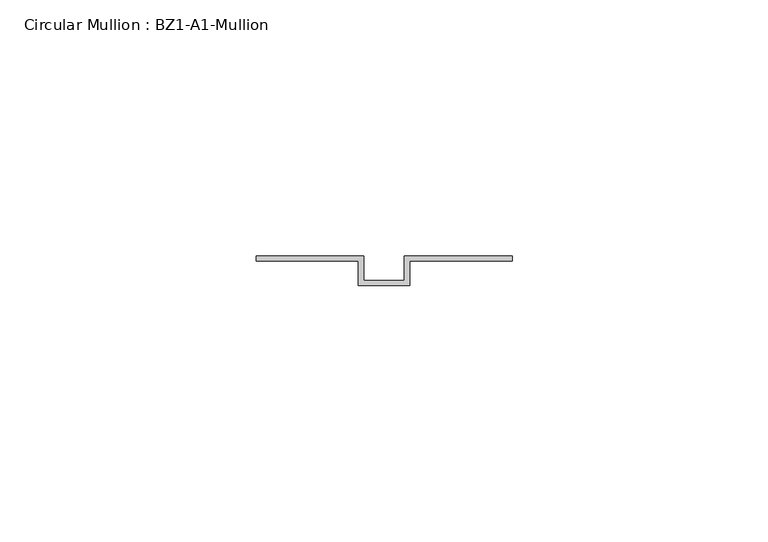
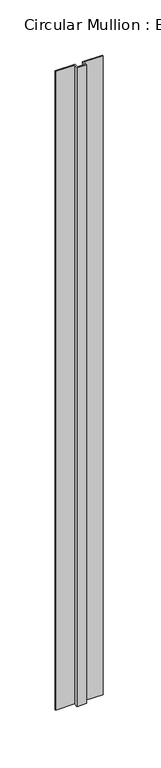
"""IFC4 building model written with IfcOpenShell, lengths in millimetres: member geometry, Circular Mullion : BZ1-A1-Mullion."""

import ifcopenshell
import ifcopenshell.guid

model = None  # the IFC model being written
_history = None  # IfcOwnerHistory: only IFC2X3 demands one
_inside = {}  # id of a spatial element -> (the spatial element, [elements in it])
_under = {}  # id of a project, library or spatial element -> (it, [spatial elements below it])
_declared = {}  # id of a project -> (the project, [libraries it declares])
_typed = {}  # id of a type object -> (the type object, [elements of that type])
_made_of = {}  # id of a material, layer set ... -> (it, [elements and type objects made of it])


def new_model(schema):
    """Start an empty IFC model of exactly this schema.

    Asked for "IFC4X3", IfcOpenShell would pick the latest addendum, in which some entities
    have other attributes; the version numbers below select the first issue.
    IFC2X3 requires an IfcOwnerHistory on every rooted entity: one is made here for all.
    """
    global model, _history
    if schema == "IFC4X3":
        model = ifcopenshell.file(schema_version=(4, 3, 0, 0))
    else:
        model = ifcopenshell.file(schema=schema)
    _inside.clear()
    _under.clear()
    _declared.clear()
    _typed.clear()
    _made_of.clear()
    _history = None
    if model.schema == "IFC2X3":
        org = make("IfcOrganization", Name="unknown")
        user = make(
            "IfcPersonAndOrganization",
            ThePerson=make("IfcPerson", FamilyName="unknown"),
            TheOrganization=org,
        )
        app = make(
            "IfcApplication",
            ApplicationDeveloper=org,
            Version="unknown",
            ApplicationFullName="unknown",
            ApplicationIdentifier="unknown",
        )
        _history = make(
            "IfcOwnerHistory",
            OwningUser=user,
            OwningApplication=app,
            ChangeAction="ADDED",
            CreationDate=0,
        )
    return model


def make(cls, **values):
    """One entity of the class cls with the attributes given. An attribute that is None is left unset."""
    return model.create_entity(
        cls, **{name: value for name, value in values.items() if value is not None}
    )


def rooted(cls, **values):
    """An entity with a GlobalId (a new one), such as an element, a storey or a relation."""
    return make(cls, GlobalId=ifcopenshell.guid.new(), OwnerHistory=_history, **values)


def si_unit(unit_type, name, prefix=None):
    """IfcSIUnit, for example si_unit("LENGTHUNIT", "METRE", prefix="MILLI")."""
    return make("IfcSIUnit", UnitType=unit_type, Prefix=prefix, Name=name)


def assignment(units):
    """IfcUnitAssignment: the units of a project."""
    return None if units is None else make("IfcUnitAssignment", Units=units)


def point(xyz):
    """IfcCartesianPoint."""
    return None if xyz is None else make("IfcCartesianPoint", Coordinates=xyz)


def direction(xyz):
    """IfcDirection."""
    return None if xyz is None else make("IfcDirection", DirectionRatios=xyz)


def frame(location, z_axis=None, x_axis=None):
    """IfcAxis2Placement3D, a coordinate frame: its origin and axes. An axis left out is left unset."""
    return make(
        "IfcAxis2Placement3D",
        Location=point(location),
        Axis=direction(z_axis),
        RefDirection=direction(x_axis),
    )


def origin():
    """The frame at (0, 0, 0) with its axes left unset."""
    return frame((0.0, 0.0, 0.0))


def place(relative_to, where):
    """IfcLocalPlacement: puts the frame where relative to a parent placement (None: the world)."""
    return make(
        "IfcLocalPlacement", PlacementRelTo=relative_to, RelativePlacement=where
    )


def context(
    kind, dimensions, precision=None, world=None, true_north=None, identifier=None
):
    """IfcGeometricRepresentationContext, for example the 3D "Model" context."""
    return make(
        "IfcGeometricRepresentationContext",
        ContextIdentifier=identifier,
        ContextType=kind,
        CoordinateSpaceDimension=dimensions,
        Precision=precision,
        WorldCoordinateSystem=world,
        TrueNorth=true_north,
    )


def project(units=None, contexts=None):
    """IfcProject with its units and contexts."""
    return rooted(
        "IfcProject",
        Name="project",
        RepresentationContexts=contexts,
        UnitsInContext=assignment(units),
    )


def spatial(cls, under=None, at=None, **own):
    """A site, building, storey or space (cls), placed at a placement, below another one or the project."""
    s = rooted(cls, ObjectPlacement=at, **own)
    if under is not None:
        _under.setdefault(under.id(), (under, []))[1].append(s)
    return s


def polyline(points):
    """IfcPolyline through the points."""
    return make("IfcPolyline", Points=[point(p) for p in points])


def outline(outer, holes=None, kind="AREA"):
    """IfcArbitraryClosedProfileDef: a profile drawn as a closed curve; with holes, ...WithVoids."""
    if holes is None:
        return make("IfcArbitraryClosedProfileDef", ProfileType=kind, OuterCurve=outer)
    return make(
        "IfcArbitraryProfileDefWithVoids",
        ProfileType=kind,
        OuterCurve=outer,
        InnerCurves=holes,
    )


def extrude(swept, where, along, depth):
    """IfcExtrudedAreaSolid: the profile swept, set in the frame where, extruded along a direction by depth."""
    return make(
        "IfcExtrudedAreaSolid",
        SweptArea=swept,
        Position=where,
        ExtrudedDirection=direction(along),
        Depth=depth,
    )


def shape(context_of_items, identifier, shape_type, items):
    """IfcShapeRepresentation: the items that make up one representation, for example the "Body"."""
    return make(
        "IfcShapeRepresentation",
        ContextOfItems=context_of_items,
        RepresentationIdentifier=identifier,
        RepresentationType=shape_type,
        Items=items,
    )


def source(mapping_origin, context_of_items, identifier, shape_type, items):
    """IfcRepresentationMap: a shape defined once, which mapped items show again and again."""
    return make(
        "IfcRepresentationMap",
        MappingOrigin=mapping_origin,
        MappedRepresentation=shape(context_of_items, identifier, shape_type, items),
    )


def transform(
    local_origin,
    x_axis=None,
    y_axis=None,
    z_axis=None,
    scale=None,
    scale2=None,
    scale3=None,
    uniform=True,
):
    """IfcCartesianTransformationOperator3D, or its non-uniform kind. x_axis, y_axis, z_axis: its Axis1, 2, 3."""
    if uniform:
        return make(
            "IfcCartesianTransformationOperator3D",
            Axis1=direction(x_axis),
            Axis2=direction(y_axis),
            LocalOrigin=point(local_origin),
            Scale=scale,
            Axis3=direction(z_axis),
        )
    return make(
        "IfcCartesianTransformationOperator3DnonUniform",
        Axis1=direction(x_axis),
        Axis2=direction(y_axis),
        LocalOrigin=point(local_origin),
        Scale=scale,
        Axis3=direction(z_axis),
        Scale2=scale2,
        Scale3=scale3,
    )


def mapped(mapping_source, mapping_target):
    """IfcMappedItem: shows the shape of a source again, moved by a transform."""
    return make(
        "IfcMappedItem", MappingSource=mapping_source, MappingTarget=mapping_target
    )


def made_of(thing, what):
    """Note that an element or type object is made of a material, layer set ...; save() writes the relation."""
    if what is not None:
        _made_of.setdefault(what.id(), (what, []))[1].append(thing)
    return thing


def element(
    cls,
    number,
    at=None,
    inside=None,
    cuts=None,
    type_object=None,
    material=None,
    context=None,
    identifier="Body",
    shape_type=None,
    held_by="IfcProductDefinitionShape",
    body=None,
    shapes=None,
    **own,
):
    """One element of the class cls, such as IfcWall. Its Tag is "e" and its number.

    at: its placement. inside: the storey or other place that contains it. cuts: it is an
    opening in that element (IfcRelVoidsElement). A single representation is given by context,
    identifier, shape_type and body (its items); several are given by shapes. held_by: the class
    of the entity that holds the representations. save() writes the other relations.
    """
    e = rooted(cls, Tag="e%d" % number, ObjectPlacement=at, **own)
    if body is not None:
        shapes = [shape(context, identifier, shape_type, body)]
    if shapes is not None:
        e.Representation = make(held_by, Representations=shapes)
    if inside is not None:
        _inside.setdefault(inside.id(), (inside, []))[1].append(e)
    if cuts is not None:
        rooted(
            "IfcRelVoidsElement", RelatingBuildingElement=cuts, RelatedOpeningElement=e
        )
    if type_object is not None:
        _typed.setdefault(type_object.id(), (type_object, []))[1].append(e)
    return made_of(e, material)


def aggregate(whole, parts):
    """IfcRelAggregates: a whole, such as a stair, and the parts it consists of."""
    return rooted("IfcRelAggregates", RelatingObject=whole, RelatedObjects=parts)


def save(model, path):
    """Write the relations noted so far, then the file.

    IfcRelAggregates (storeys below a building ...), IfcRelContainedInSpatialStructure (elements
    in a storey), IfcRelDefinesByType, IfcRelAssociatesMaterial and IfcRelDeclares: one each for
    every whole, place, type object, material and project.
    """
    for whole, parts in _under.values():
        aggregate(whole, parts)
    for where, things in _inside.values():
        rooted(
            "IfcRelContainedInSpatialStructure",
            RelatedElements=things,
            RelatingStructure=where,
        )
    for kind, things in _typed.values():
        rooted("IfcRelDefinesByType", RelatedObjects=things, RelatingType=kind)
    for what, things in _made_of.values():
        rooted("IfcRelAssociatesMaterial", RelatedObjects=things, RelatingMaterial=what)
    for by, libraries in _declared.values():
        rooted("IfcRelDeclares", RelatingContext=by, RelatedDefinitions=libraries)
    model.write(path)


def circular_mullion_bz1_a1_mullion_b8262e4c(model_context):
    return source(origin(), model_context, "Body", "SweptSolid", [
        extrude(outline(polyline([(-25.0, 11.0), (-4.0, 11.0), (-4.0, 6.2), (4.0, 6.2), (4.0, 11.0), (25.0, 11.0), (25.0, 10.0), (5.0, 10.0), (5.0, 5.2), (-5.0, 5.2), (-5.0, 10.0), (-25.0, 10.0), (-25.0, 11.0)])), frame((0.0, 0.0, -708.0555556), z_axis=(0.0, 0.0, 1.0), x_axis=(1.0, 0.0, 0.0)), (0.0, 0.0, 1.0), 708.0555556),
    ])


if __name__ == "__main__":
    model = new_model("IFC4")
    model_context = context("Model", 3, world=origin())
    ifc_project = project(units=[si_unit("LENGTHUNIT", "METRE", prefix="MILLI")], contexts=[model_context])
    site = spatial("IfcSite", under=ifc_project)
    building = spatial("IfcBuilding", under=site)
    placement = place(None, origin())
    circular_mullion_bz1_a1_mullion_shape = circular_mullion_bz1_a1_mullion_b8262e4c(model_context)
    element("IfcMember", 1, ObjectType="Circular Mullion : BZ1-A1-Mullion", at=placement, inside=building, context=model_context, shape_type="MappedRepresentation", body=[
        mapped(circular_mullion_bz1_a1_mullion_shape, transform((0.0, 0.0, 0.0), x_axis=(1.0, 0.0, 0.0), y_axis=(0.0, 1.0, 0.0), z_axis=(0.0, 0.0, 1.0))),
    ])
    save(model, "model.ifc")
